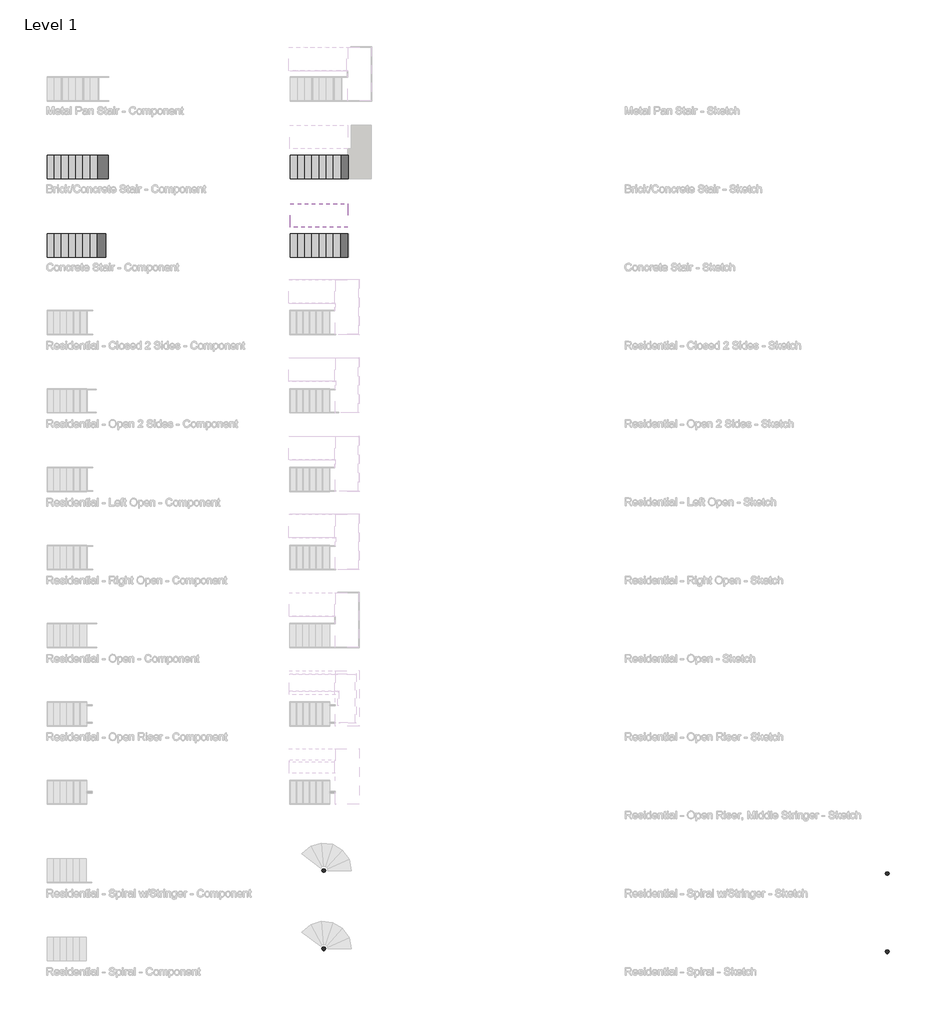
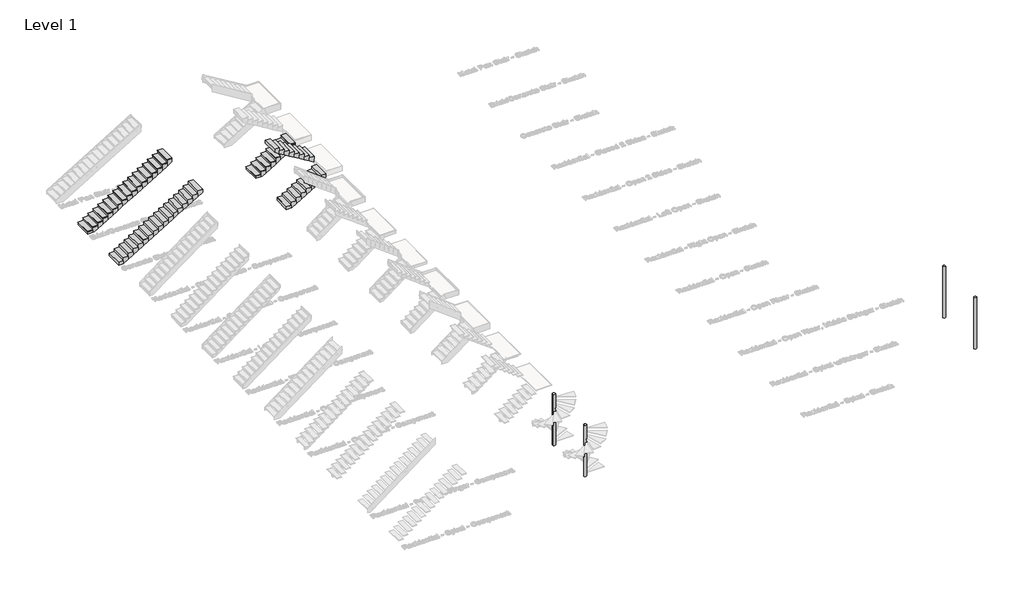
# One storey, part 1 of 26: 5 stair flights, 4 columns.
"""IFC4 building model written with IfcOpenShell, lengths in millimetres."""

from ifc_helpers import new_model, si_unit, frame, origin, place, context, project, spatial, polyline, outline, extrude, faceted_brep, transform, mapped, element, save
from components import column_79e7fb11

model = new_model("IFC4")

# Units and contexts
model_context = context("Model", 3, world=origin())
ifc_project = project(units=[si_unit("LENGTHUNIT", "METRE", prefix="MILLI")], contexts=[model_context])

# Site, building, storey
site = spatial("IfcSite", under=ifc_project)
building = spatial("IfcBuilding", under=site)
storey = spatial("IfcBuildingStorey", under=building, Name="Level 1", Elevation=0.0)

# Columns
placement = place(None, origin())
column_shape = column_79e7fb11(model_context)
element("IfcColumn", 1, ObjectType="Round Column : 06\" Diameter", at=placement, inside=storey, context=model_context, shape_type="MappedRepresentation", body=[
    mapped(column_shape, transform((5492.2136216, -13992.6110643, 0.0), x_axis=(1.0, 0.0, 0.0), y_axis=(0.0, 1.0, 0.0), z_axis=(0.0, 0.0, 1.0))),
])
element("IfcColumn", 2, ObjectType="Round Column : 06\" Diameter", at=placement, inside=storey, context=model_context, shape_type="MappedRepresentation", body=[
    mapped(column_shape, transform((5492.2136216, -17040.6110643, 0.0), x_axis=(1.0, 0.0, 0.0), y_axis=(0.0, 1.0, 0.0), z_axis=(0.0, 0.0, 1.0))),
])
element("IfcColumn", 3, ObjectType="Round Column : 06\" Diameter", at=placement, inside=storey, context=model_context, shape_type="MappedRepresentation", body=[
    mapped(column_shape, transform((-16453.3863784, -13874.8871906, 0.0), x_axis=(1.0, 0.0, 0.0), y_axis=(0.0, 1.0, 0.0), z_axis=(0.0, 0.0, 1.0))),
])
element("IfcColumn", 4, ObjectType="Round Column : 06\" Diameter", at=placement, inside=storey, context=model_context, shape_type="MappedRepresentation", body=[
    mapped(column_shape, transform((-16453.3863784, -16922.8871906, 0.0), x_axis=(1.0, 0.0, 0.0), y_axis=(0.0, 1.0, 0.0), z_axis=(0.0, 0.0, 1.0))),
])

# Stair flights
element("IfcStairFlight", 5, ObjectType="1 3/4\" Tread 1\" Nosing", at=placement, inside=storey, context=model_context, shape_type="SolidModel", body=[
    faceted_brep([(-26926.0481446, 13972.7635042, 124.8833333), (-27205.4481446, 13972.7635042, 124.8833333), (-27205.4481446, 13058.3635042, 124.8833333), (-26926.0481446, 13058.3635042, 124.8833333), (-26926.0481446, 13972.7635042, 0.0), (-27205.4481446, 13972.7635042, 0.0), (-27205.4481446, 13058.3635042, 0.0), (-26926.0481446, 13058.3635042, 0.0), (-26646.6481446, 13972.7635042, 294.2166667), (-26926.0481446, 13972.7635042, 294.2166667), (-26926.0481446, 13058.3635042, 294.2166667), (-26646.6481446, 13058.3635042, 294.2166667), (-26646.6481446, 13972.7635042, 116.0122859), (-26838.0684164, 13972.7635042, 0.0), (-26838.0684164, 13058.3635042, 0.0), (-26646.6481446, 13058.3635042, 116.0122859), (-26367.2481446, 13972.7635042, 463.55), (-26646.6481446, 13972.7635042, 463.55), (-26646.6481446, 13058.3635042, 463.55), (-26367.2481446, 13058.3635042, 463.55), (-26367.2481446, 13972.7635042, 285.3456192), (-26367.2481446, 13058.3635042, 285.3456192), (-26087.8481446, 13972.7635042, 632.8833333), (-26367.2481446, 13972.7635042, 632.8833333), (-26367.2481446, 13058.3635042, 632.8833333), (-26087.8481446, 13058.3635042, 632.8833333), (-26087.8481446, 13972.7635042, 454.6789526), (-26087.8481446, 13058.3635042, 454.6789526), (-25808.4481446, 13972.7635042, 802.2166667), (-26087.8481446, 13972.7635042, 802.2166667), (-26087.8481446, 13058.3635042, 802.2166667), (-25808.4481446, 13058.3635042, 802.2166667), (-25808.4481446, 13972.7635042, 624.0122859), (-25808.4481446, 13058.3635042, 624.0122859), (-25529.0481446, 13972.7635042, 971.55), (-25808.4481446, 13972.7635042, 971.55), (-25808.4481446, 13058.3635042, 971.55), (-25529.0481446, 13058.3635042, 971.55), (-25529.0481446, 13972.7635042, 793.3456192), (-25529.0481446, 13058.3635042, 793.3456192), (-25249.6481446, 13972.7635042, 1140.8833333), (-25529.0481446, 13972.7635042, 1140.8833333), (-25529.0481446, 13058.3635042, 1140.8833333), (-25249.6481446, 13058.3635042, 1140.8833333), (-25249.6481446, 13972.7635042, 962.6789526), (-25249.6481446, 13058.3635042, 962.6789526), (-24970.2481446, 13972.7635042, 1310.2166667), (-25249.6481446, 13972.7635042, 1310.2166667), (-25249.6481446, 13058.3635042, 1310.2166667), (-24970.2481446, 13058.3635042, 1310.2166667), (-24970.2481446, 13972.7635042, 1132.0122859), (-24970.2481446, 13058.3635042, 1132.0122859), (-24690.8481446, 13972.7635042, 1479.55), (-24970.2481446, 13972.7635042, 1479.55), (-24970.2481446, 13058.3635042, 1479.55), (-24690.8481446, 13058.3635042, 1479.55), (-24690.8481446, 13972.7635042, 1301.3456192), (-24690.8481446, 13058.3635042, 1301.3456192), (-24411.4481446, 13972.7635042, 1648.8833333), (-24690.8481446, 13972.7635042, 1648.8833333), (-24690.8481446, 13058.3635042, 1648.8833333), (-24411.4481446, 13058.3635042, 1648.8833333), (-24411.4481446, 13972.7635042, 1470.6789526), (-24411.4481446, 13058.3635042, 1470.6789526), (-24132.0481446, 13972.7635042, 1818.2166667), (-24411.4481446, 13972.7635042, 1818.2166667), (-24411.4481446, 13058.3635042, 1818.2166667), (-24132.0481446, 13058.3635042, 1818.2166667), (-24132.0481446, 13972.7635042, 1640.0122859), (-24132.0481446, 13058.3635042, 1640.0122859), (-23852.6481446, 13972.7635042, 1987.55), (-24132.0481446, 13972.7635042, 1987.55), (-24132.0481446, 13058.3635042, 1987.55), (-23852.6481446, 13058.3635042, 1987.55), (-23852.6481446, 13972.7635042, 1809.3456192), (-23852.6481446, 13058.3635042, 1809.3456192), (-23573.2481446, 13972.7635042, 2156.8833333), (-23852.6481446, 13972.7635042, 2156.8833333), (-23852.6481446, 13058.3635042, 2156.8833333), (-23573.2481446, 13058.3635042, 2156.8833333), (-23573.2481446, 13972.7635042, 1978.6789526), (-23573.2481446, 13058.3635042, 1978.6789526), (-23293.8481446, 13972.7635042, 2326.2166667), (-23573.2481446, 13972.7635042, 2326.2166667), (-23573.2481446, 13058.3635042, 2326.2166667), (-23293.8481446, 13058.3635042, 2326.2166667), (-23293.8481446, 13972.7635042, 2148.0122859), (-23293.8481446, 13058.3635042, 2148.0122859), (-23014.4481446, 13972.7635042, 2495.55), (-23293.8481446, 13972.7635042, 2495.55), (-23293.8481446, 13058.3635042, 2495.55), (-23014.4481446, 13058.3635042, 2495.55), (-23014.4481446, 13972.7635042, 2317.3456192), (-23014.4481446, 13058.3635042, 2317.3456192), (-22735.0481446, 13972.7635042, 2664.8833333), (-23014.4481446, 13972.7635042, 2664.8833333), (-23014.4481446, 13058.3635042, 2664.8833333), (-22735.0481446, 13058.3635042, 2664.8833333), (-22735.0481446, 13972.7635042, 2486.6789526), (-22735.0481446, 13058.3635042, 2486.6789526), (-22455.6481446, 13972.7635042, 2834.2166667), (-22735.0481446, 13972.7635042, 2834.2166667), (-22735.0481446, 13058.3635042, 2834.2166667), (-22455.6481446, 13058.3635042, 2834.2166667), (-22455.6481446, 13972.7635042, 2656.0122859), (-22455.6481446, 13058.3635042, 2656.0122859)], [[[0, 1, 2, 3]], [[1, 0, 4, 5]], [[2, 1, 5, 6]], [[3, 2, 6, 7]], [[8, 9, 10, 11]], [[4, 0, 9, 8, 12, 13]], [[0, 3, 10, 9]], [[3, 7, 14, 15, 11, 10]], [[16, 17, 18, 19]], [[17, 16, 20, 12, 8]], [[8, 11, 18, 17]], [[19, 18, 11, 15, 21]], [[22, 23, 24, 25]], [[23, 22, 26, 20, 16]], [[16, 19, 24, 23]], [[25, 24, 19, 21, 27]], [[28, 29, 30, 31]], [[29, 28, 32, 26, 22]], [[22, 25, 30, 29]], [[31, 30, 25, 27, 33]], [[34, 35, 36, 37]], [[35, 34, 38, 32, 28]], [[28, 31, 36, 35]], [[37, 36, 31, 33, 39]], [[40, 41, 42, 43]], [[41, 40, 44, 38, 34]], [[34, 37, 42, 41]], [[43, 42, 37, 39, 45]], [[46, 47, 48, 49]], [[47, 46, 50, 44, 40]], [[40, 43, 48, 47]], [[49, 48, 43, 45, 51]], [[52, 53, 54, 55]], [[53, 52, 56, 50, 46]], [[46, 49, 54, 53]], [[55, 54, 49, 51, 57]], [[58, 59, 60, 61]], [[59, 58, 62, 56, 52]], [[52, 55, 60, 59]], [[61, 60, 55, 57, 63]], [[64, 65, 66, 67]], [[65, 64, 68, 62, 58]], [[58, 61, 66, 65]], [[67, 66, 61, 63, 69]], [[70, 71, 72, 73]], [[71, 70, 74, 68, 64]], [[64, 67, 72, 71]], [[73, 72, 67, 69, 75]], [[76, 77, 78, 79]], [[77, 76, 80, 74, 70]], [[70, 73, 78, 77]], [[79, 78, 73, 75, 81]], [[82, 83, 84, 85]], [[83, 82, 86, 80, 76]], [[76, 79, 84, 83]], [[85, 84, 79, 81, 87]], [[88, 89, 90, 91]], [[89, 88, 92, 86, 82]], [[82, 85, 90, 89]], [[91, 90, 85, 87, 93]], [[94, 95, 96, 97]], [[95, 94, 98, 92, 88]], [[88, 91, 96, 95]], [[97, 96, 91, 93, 99]], [[100, 101, 102, 103]], [[101, 100, 104, 98, 94]], [[94, 97, 102, 101]], [[103, 102, 97, 99, 105]], [[100, 103, 105, 104]], [[5, 4, 13, 14, 7, 6]], [[14, 13, 12, 20, 26, 32, 38, 44, 50, 56, 62, 68, 74, 80, 86, 92, 98, 104, 105, 99, 93, 87, 81, 75, 69, 63, 57, 51, 45, 39, 33, 27, 21, 15]]]),
    extrude(outline(polyline([(169.3333333, -26926.0481446), (169.3333333, -27230.8481446), (150.2833333, -27230.8481446), (124.8833333, -27205.4481446), (124.8833333, -26926.0481446), (169.3333333, -26926.0481446)])), frame((0.0, 13058.3635042, 0.0), z_axis=(0.0, 1.0, 0.0), x_axis=(0.0, 0.0, 1.0)), (0.0, 0.0, 1.0), 914.4),
    extrude(outline(polyline([(338.6666667, -26646.6481446), (338.6666667, -26951.4481446), (319.6166667, -26951.4481446), (294.2166667, -26926.0481446), (294.2166667, -26646.6481446), (338.6666667, -26646.6481446)])), frame((0.0, 13058.3635042, 0.0), z_axis=(0.0, 1.0, 0.0), x_axis=(0.0, 0.0, 1.0)), (0.0, 0.0, 1.0), 914.4),
    extrude(outline(polyline([(508.0, -26367.2481446), (508.0, -26672.0481446), (488.95, -26672.0481446), (463.55, -26646.6481446), (463.55, -26367.2481446), (508.0, -26367.2481446)])), frame((0.0, 13058.3635042, 0.0), z_axis=(0.0, 1.0, 0.0), x_axis=(0.0, 0.0, 1.0)), (0.0, 0.0, 1.0), 914.4),
    extrude(outline(polyline([(677.3333333, -26087.8481446), (677.3333333, -26392.6481446), (658.2833333, -26392.6481446), (632.8833333, -26367.2481446), (632.8833333, -26087.8481446), (677.3333333, -26087.8481446)])), frame((0.0, 13058.3635042, 0.0), z_axis=(0.0, 1.0, 0.0), x_axis=(0.0, 0.0, 1.0)), (0.0, 0.0, 1.0), 914.4),
    extrude(outline(polyline([(846.6666667, -25808.4481446), (846.6666667, -26113.2481446), (827.6166667, -26113.2481446), (802.2166667, -26087.8481446), (802.2166667, -25808.4481446), (846.6666667, -25808.4481446)])), frame((0.0, 13058.3635042, 0.0), z_axis=(0.0, 1.0, 0.0), x_axis=(0.0, 0.0, 1.0)), (0.0, 0.0, 1.0), 914.4),
    extrude(outline(polyline([(1016.0, -25529.0481446), (1016.0, -25833.8481446), (996.95, -25833.8481446), (971.55, -25808.4481446), (971.55, -25529.0481446), (1016.0, -25529.0481446)])), frame((0.0, 13058.3635042, 0.0), z_axis=(0.0, 1.0, 0.0), x_axis=(0.0, 0.0, 1.0)), (0.0, 0.0, 1.0), 914.4),
    extrude(outline(polyline([(1185.3333333, -25249.6481446), (1185.3333333, -25554.4481446), (1166.2833333, -25554.4481446), (1140.8833333, -25529.0481446), (1140.8833333, -25249.6481446), (1185.3333333, -25249.6481446)])), frame((0.0, 13058.3635042, 0.0), z_axis=(0.0, 1.0, 0.0), x_axis=(0.0, 0.0, 1.0)), (0.0, 0.0, 1.0), 914.4),
    extrude(outline(polyline([(1354.6666667, -24970.2481446), (1354.6666667, -25275.0481446), (1335.6166667, -25275.0481446), (1310.2166667, -25249.6481446), (1310.2166667, -24970.2481446), (1354.6666667, -24970.2481446)])), frame((0.0, 13058.3635042, 0.0), z_axis=(0.0, 1.0, 0.0), x_axis=(0.0, 0.0, 1.0)), (0.0, 0.0, 1.0), 914.4),
    extrude(outline(polyline([(1524.0, -24690.8481446), (1524.0, -24995.6481446), (1504.95, -24995.6481446), (1479.55, -24970.2481446), (1479.55, -24690.8481446), (1524.0, -24690.8481446)])), frame((0.0, 13058.3635042, 0.0), z_axis=(0.0, 1.0, 0.0), x_axis=(0.0, 0.0, 1.0)), (0.0, 0.0, 1.0), 914.4),
    extrude(outline(polyline([(1693.3333333, -24411.4481446), (1693.3333333, -24716.2481446), (1674.2833333, -24716.2481446), (1648.8833333, -24690.8481446), (1648.8833333, -24411.4481446), (1693.3333333, -24411.4481446)])), frame((0.0, 13058.3635042, 0.0), z_axis=(0.0, 1.0, 0.0), x_axis=(0.0, 0.0, 1.0)), (0.0, 0.0, 1.0), 914.4),
    extrude(outline(polyline([(1862.6666667, -24132.0481446), (1862.6666667, -24436.8481446), (1843.6166667, -24436.8481446), (1818.2166667, -24411.4481446), (1818.2166667, -24132.0481446), (1862.6666667, -24132.0481446)])), frame((0.0, 13058.3635042, 0.0), z_axis=(0.0, 1.0, 0.0), x_axis=(0.0, 0.0, 1.0)), (0.0, 0.0, 1.0), 914.4),
    extrude(outline(polyline([(2032.0, -23852.6481446), (2032.0, -24157.4481446), (2012.95, -24157.4481446), (1987.55, -24132.0481446), (1987.55, -23852.6481446), (2032.0, -23852.6481446)])), frame((0.0, 13058.3635042, 0.0), z_axis=(0.0, 1.0, 0.0), x_axis=(0.0, 0.0, 1.0)), (0.0, 0.0, 1.0), 914.4),
    extrude(outline(polyline([(2201.3333333, -23573.2481446), (2201.3333333, -23878.0481446), (2182.2833333, -23878.0481446), (2156.8833333, -23852.6481446), (2156.8833333, -23573.2481446), (2201.3333333, -23573.2481446)])), frame((0.0, 13058.3635042, 0.0), z_axis=(0.0, 1.0, 0.0), x_axis=(0.0, 0.0, 1.0)), (0.0, 0.0, 1.0), 914.4),
    extrude(outline(polyline([(2370.6666667, -23293.8481446), (2370.6666667, -23598.6481446), (2351.6166667, -23598.6481446), (2326.2166667, -23573.2481446), (2326.2166667, -23293.8481446), (2370.6666667, -23293.8481446)])), frame((0.0, 13058.3635042, 0.0), z_axis=(0.0, 1.0, 0.0), x_axis=(0.0, 0.0, 1.0)), (0.0, 0.0, 1.0), 914.4),
    extrude(outline(polyline([(2540.0, -23014.4481446), (2540.0, -23319.2481446), (2520.95, -23319.2481446), (2495.55, -23293.8481446), (2495.55, -23014.4481446), (2540.0, -23014.4481446)])), frame((0.0, 13058.3635042, 0.0), z_axis=(0.0, 1.0, 0.0), x_axis=(0.0, 0.0, 1.0)), (0.0, 0.0, 1.0), 914.4),
    extrude(outline(polyline([(2709.3333333, -22735.0481446), (2709.3333333, -23039.8481446), (2690.2833333, -23039.8481446), (2664.8833333, -23014.4481446), (2664.8833333, -22735.0481446), (2709.3333333, -22735.0481446)])), frame((0.0, 13058.3635042, 0.0), z_axis=(0.0, 1.0, 0.0), x_axis=(0.0, 0.0, 1.0)), (0.0, 0.0, 1.0), 914.4),
    extrude(outline(polyline([(2878.6666667, -22455.6481446), (2878.6666667, -22760.4481446), (2859.6166667, -22760.4481446), (2834.2166667, -22735.0481446), (2834.2166667, -22455.6481446), (2878.6666667, -22455.6481446)])), frame((0.0, 13058.3635042, 0.0), z_axis=(0.0, 1.0, 0.0), x_axis=(0.0, 0.0, 1.0)), (0.0, 0.0, 1.0), 914.4),
])
element("IfcStairFlight", 6, ObjectType="1 3/4\" Tread 1\" Nosing", at=placement, inside=storey, context=model_context, shape_type="Brep", body=[
    faceted_brep([(-17451.8481446, 13972.7635042, 124.8833333), (-17731.2481446, 13972.7635042, 124.8833333), (-17731.2481446, 13058.3635042, 124.8833333), (-17451.8481446, 13058.3635042, 124.8833333), (-17451.8481446, 13972.7635042, 0.0), (-17731.2481446, 13972.7635042, 0.0), (-17731.2481446, 13058.3635042, 0.0), (-17451.8481446, 13058.3635042, 0.0), (-15775.4481446, 13972.7635042, 1310.2166667), (-15775.4481446, 13058.3635042, 1310.2166667), (-15521.4481446, 13058.3635042, 1310.2166667), (-15496.0481446, 13058.3635042, 1310.2166667), (-15496.0481446, 13972.7635042, 1310.2166667), (-15521.4481446, 13972.7635042, 1310.2166667), (-15775.4481446, 13972.7635042, 1140.8833333), (-15496.0481446, 13972.7635042, 1177.1469875), (-15496.0481446, 13972.7635042, 1132.0122859), (-15775.4481446, 13972.7635042, 962.6789526), (-15775.4481446, 13058.3635042, 1140.8833333), (-15775.4481446, 13058.3635042, 962.6789526), (-15521.4481446, 13058.3635042, 1116.6183465), (-15496.0481446, 13058.3635042, 1132.0122859), (-17172.4481446, 13972.7635042, 294.2166667), (-17451.8481446, 13972.7635042, 294.2166667), (-17451.8481446, 13058.3635042, 294.2166667), (-17172.4481446, 13058.3635042, 294.2166667), (-17172.4481446, 13972.7635042, 116.0122859), (-17363.8684164, 13972.7635042, 0.0), (-17363.8684164, 13058.3635042, 0.0), (-17172.4481446, 13058.3635042, 116.0122859), (-16893.0481446, 13972.7635042, 463.55), (-17172.4481446, 13972.7635042, 463.55), (-17172.4481446, 13058.3635042, 463.55), (-16893.0481446, 13058.3635042, 463.55), (-16893.0481446, 13972.7635042, 285.3456192), (-16893.0481446, 13058.3635042, 285.3456192), (-16613.6481446, 13972.7635042, 632.8833333), (-16893.0481446, 13972.7635042, 632.8833333), (-16893.0481446, 13058.3635042, 632.8833333), (-16613.6481446, 13058.3635042, 632.8833333), (-16613.6481446, 13972.7635042, 454.6789526), (-16613.6481446, 13058.3635042, 454.6789526), (-16334.2481446, 13972.7635042, 802.2166667), (-16613.6481446, 13972.7635042, 802.2166667), (-16613.6481446, 13058.3635042, 802.2166667), (-16334.2481446, 13058.3635042, 802.2166667), (-16334.2481446, 13972.7635042, 624.0122859), (-16334.2481446, 13058.3635042, 624.0122859), (-16054.8481446, 13972.7635042, 971.55), (-16334.2481446, 13972.7635042, 971.55), (-16334.2481446, 13058.3635042, 971.55), (-16054.8481446, 13058.3635042, 971.55), (-16054.8481446, 13972.7635042, 793.3456192), (-16054.8481446, 13058.3635042, 793.3456192), (-16054.8481446, 13972.7635042, 1140.8833333), (-16054.8481446, 13058.3635042, 1140.8833333)], [[[0, 1, 2, 3]], [[1, 0, 4, 5]], [[2, 1, 5, 6]], [[3, 2, 6, 7]], [[8, 9, 10, 11, 12, 13]], [[14, 8, 13, 12, 15, 16, 17]], [[14, 18, 9, 8]], [[10, 9, 18, 19, 20]], [[11, 10, 20, 21]], [[12, 11, 21, 16, 15]], [[22, 23, 24, 25]], [[4, 0, 23, 22, 26, 27]], [[0, 3, 24, 23]], [[3, 7, 28, 29, 25, 24]], [[30, 31, 32, 33]], [[31, 30, 34, 26, 22]], [[22, 25, 32, 31]], [[33, 32, 25, 29, 35]], [[36, 37, 38, 39]], [[37, 36, 40, 34, 30]], [[30, 33, 38, 37]], [[39, 38, 33, 35, 41]], [[42, 43, 44, 45]], [[43, 42, 46, 40, 36]], [[36, 39, 44, 43]], [[45, 44, 39, 41, 47]], [[48, 49, 50, 51]], [[49, 48, 52, 46, 42]], [[42, 45, 50, 49]], [[51, 50, 45, 47, 53]], [[14, 54, 55, 18]], [[54, 14, 17, 52, 48]], [[48, 51, 55, 54]], [[18, 55, 51, 53, 19]], [[5, 4, 27, 28, 7, 6]], [[28, 27, 26, 34, 40, 46, 52, 17, 16, 21, 20, 19, 53, 47, 41, 35, 29]]]),
    faceted_brep([(-17756.6481446, 13972.7635042, 169.3333333), (-17756.6481446, 13058.3635042, 169.3333333), (-17451.8481446, 13058.3635042, 169.3333333), (-17451.8481446, 13972.7635042, 169.3333333), (-17731.2481446, 13972.7635042, 124.8833333), (-17451.8481446, 13972.7635042, 124.8833333), (-17451.8481446, 13058.3635042, 124.8833333), (-17731.2481446, 13058.3635042, 124.8833333), (-17756.6481446, 13972.7635042, 150.2833333), (-17756.6481446, 13058.3635042, 150.2833333)], [[[0, 1, 2, 3]], [[4, 5, 6, 7]], [[0, 3, 5, 4, 8]], [[2, 1, 9, 7, 6]], [[3, 2, 6, 5]], [[9, 1, 0, 8]], [[7, 9, 8, 4]]]),
    faceted_brep([(-15800.8481446, 13972.7635042, 1354.6666667), (-15800.8481446, 13058.3635042, 1354.6666667), (-15521.4481446, 13058.3635042, 1354.6666667), (-15496.0481446, 13058.3635042, 1354.6666667), (-15496.0481446, 13972.7635042, 1354.6666667), (-15775.4481446, 13972.7635042, 1310.2166667), (-15496.0481446, 13972.7635042, 1310.2166667), (-15496.0481446, 13058.3635042, 1310.2166667), (-15521.4481446, 13058.3635042, 1310.2166667), (-15775.4481446, 13058.3635042, 1310.2166667), (-15800.8481446, 13972.7635042, 1335.6166667), (-15800.8481446, 13058.3635042, 1335.6166667)], [[[0, 1, 2, 3, 4]], [[5, 6, 7, 8, 9]], [[0, 4, 6, 5, 10]], [[2, 1, 11, 9, 8]], [[3, 2, 8, 7]], [[11, 1, 0, 10]], [[9, 11, 10, 5]], [[4, 3, 7, 6]]]),
    faceted_brep([(-17477.2481446, 13972.7635042, 338.6666667), (-17477.2481446, 13058.3635042, 338.6666667), (-17172.4481446, 13058.3635042, 338.6666667), (-17172.4481446, 13972.7635042, 338.6666667), (-17451.8481446, 13972.7635042, 294.2166667), (-17172.4481446, 13972.7635042, 294.2166667), (-17172.4481446, 13058.3635042, 294.2166667), (-17451.8481446, 13058.3635042, 294.2166667), (-17477.2481446, 13972.7635042, 319.6166667), (-17477.2481446, 13058.3635042, 319.6166667)], [[[0, 1, 2, 3]], [[4, 5, 6, 7]], [[0, 3, 5, 4, 8]], [[2, 1, 9, 7, 6]], [[3, 2, 6, 5]], [[9, 1, 0, 8]], [[7, 9, 8, 4]]]),
    faceted_brep([(-17197.8481446, 13972.7635042, 508.0), (-17197.8481446, 13058.3635042, 508.0), (-16893.0481446, 13058.3635042, 508.0), (-16893.0481446, 13972.7635042, 508.0), (-17172.4481446, 13972.7635042, 463.55), (-16893.0481446, 13972.7635042, 463.55), (-16893.0481446, 13058.3635042, 463.55), (-17172.4481446, 13058.3635042, 463.55), (-17197.8481446, 13972.7635042, 488.95), (-17197.8481446, 13058.3635042, 488.95)], [[[0, 1, 2, 3]], [[4, 5, 6, 7]], [[0, 3, 5, 4, 8]], [[2, 1, 9, 7, 6]], [[3, 2, 6, 5]], [[9, 1, 0, 8]], [[7, 9, 8, 4]]]),
    faceted_brep([(-16918.4481446, 13972.7635042, 677.3333333), (-16918.4481446, 13058.3635042, 677.3333333), (-16613.6481446, 13058.3635042, 677.3333333), (-16613.6481446, 13972.7635042, 677.3333333), (-16893.0481446, 13972.7635042, 632.8833333), (-16613.6481446, 13972.7635042, 632.8833333), (-16613.6481446, 13058.3635042, 632.8833333), (-16893.0481446, 13058.3635042, 632.8833333), (-16918.4481446, 13972.7635042, 658.2833333), (-16918.4481446, 13058.3635042, 658.2833333)], [[[0, 1, 2, 3]], [[4, 5, 6, 7]], [[0, 3, 5, 4, 8]], [[2, 1, 9, 7, 6]], [[3, 2, 6, 5]], [[9, 1, 0, 8]], [[7, 9, 8, 4]]]),
    faceted_brep([(-16639.0481446, 13972.7635042, 846.6666667), (-16639.0481446, 13058.3635042, 846.6666667), (-16334.2481446, 13058.3635042, 846.6666667), (-16334.2481446, 13972.7635042, 846.6666667), (-16613.6481446, 13972.7635042, 802.2166667), (-16334.2481446, 13972.7635042, 802.2166667), (-16334.2481446, 13058.3635042, 802.2166667), (-16613.6481446, 13058.3635042, 802.2166667), (-16639.0481446, 13972.7635042, 827.6166667), (-16639.0481446, 13058.3635042, 827.6166667)], [[[0, 1, 2, 3]], [[4, 5, 6, 7]], [[0, 3, 5, 4, 8]], [[2, 1, 9, 7, 6]], [[3, 2, 6, 5]], [[9, 1, 0, 8]], [[7, 9, 8, 4]]]),
    faceted_brep([(-16359.6481446, 13972.7635042, 1016.0), (-16359.6481446, 13058.3635042, 1016.0), (-16054.8481446, 13058.3635042, 1016.0), (-16054.8481446, 13972.7635042, 1016.0), (-16334.2481446, 13972.7635042, 971.55), (-16054.8481446, 13972.7635042, 971.55), (-16054.8481446, 13058.3635042, 971.55), (-16334.2481446, 13058.3635042, 971.55), (-16359.6481446, 13972.7635042, 996.95), (-16359.6481446, 13058.3635042, 996.95)], [[[0, 1, 2, 3]], [[4, 5, 6, 7]], [[0, 3, 5, 4, 8]], [[2, 1, 9, 7, 6]], [[3, 2, 6, 5]], [[9, 1, 0, 8]], [[7, 9, 8, 4]]]),
    faceted_brep([(-16080.2481446, 13972.7635042, 1185.3333333), (-16080.2481446, 13058.3635042, 1185.3333333), (-15775.4481446, 13058.3635042, 1185.3333333), (-15775.4481446, 13972.7635042, 1185.3333333), (-16054.8481446, 13972.7635042, 1140.8833333), (-15775.4481446, 13972.7635042, 1140.8833333), (-15775.4481446, 13058.3635042, 1140.8833333), (-16054.8481446, 13058.3635042, 1140.8833333), (-16080.2481446, 13972.7635042, 1166.2833333), (-16080.2481446, 13058.3635042, 1166.2833333)], [[[0, 1, 2, 3]], [[4, 5, 6, 7]], [[0, 3, 5, 4, 8]], [[2, 1, 9, 7, 6]], [[3, 2, 6, 5]], [[9, 1, 0, 8]], [[7, 9, 8, 4]]]),
])
element("IfcStairFlight", 7, ObjectType="1/32\" Tread", at=placement, inside=storey, context=model_context, shape_type="SolidModel", body=[
    faceted_brep([(-26951.4481446, 10924.7635042, 168.5395833), (-27230.8481446, 10924.7635042, 168.5395833), (-27230.8481446, 10010.3635042, 168.5395833), (-26951.4481446, 10010.3635042, 168.5395833), (-26951.4481446, 10924.7635042, 0.0), (-27230.8481446, 10924.7635042, 0.0), (-27230.8481446, 10010.3635042, 0.0), (-26951.4481446, 10010.3635042, 0.0), (-26672.0481446, 10924.7635042, 337.8729167), (-26951.4481446, 10924.7635042, 337.8729167), (-26951.4481446, 10010.3635042, 337.8729167), (-26672.0481446, 10010.3635042, 337.8729167), (-26672.0481446, 10924.7635042, 159.6685359), (-26935.5012289, 10924.7635042, 0.0), (-26935.5012289, 10010.3635042, 0.0), (-26672.0481446, 10010.3635042, 159.6685359), (-26392.6481446, 10924.7635042, 507.20625), (-26672.0481446, 10924.7635042, 507.20625), (-26672.0481446, 10010.3635042, 507.20625), (-26392.6481446, 10010.3635042, 507.20625), (-26392.6481446, 10924.7635042, 329.0018692), (-26392.6481446, 10010.3635042, 329.0018692), (-26113.2481446, 10924.7635042, 676.5395833), (-26392.6481446, 10924.7635042, 676.5395833), (-26392.6481446, 10010.3635042, 676.5395833), (-26113.2481446, 10010.3635042, 676.5395833), (-26113.2481446, 10924.7635042, 498.3352026), (-26113.2481446, 10010.3635042, 498.3352026), (-25833.8481446, 10924.7635042, 845.8729167), (-26113.2481446, 10924.7635042, 845.8729167), (-26113.2481446, 10010.3635042, 845.8729167), (-25833.8481446, 10010.3635042, 845.8729167), (-25833.8481446, 10924.7635042, 667.6685359), (-25833.8481446, 10010.3635042, 667.6685359), (-25554.4481446, 10924.7635042, 1015.20625), (-25833.8481446, 10924.7635042, 1015.20625), (-25833.8481446, 10010.3635042, 1015.20625), (-25554.4481446, 10010.3635042, 1015.20625), (-25554.4481446, 10924.7635042, 837.0018692), (-25554.4481446, 10010.3635042, 837.0018692), (-25275.0481446, 10924.7635042, 1184.5395833), (-25554.4481446, 10924.7635042, 1184.5395833), (-25554.4481446, 10010.3635042, 1184.5395833), (-25275.0481446, 10010.3635042, 1184.5395833), (-25275.0481446, 10924.7635042, 1006.3352026), (-25275.0481446, 10010.3635042, 1006.3352026), (-24995.6481446, 10924.7635042, 1353.8729167), (-25275.0481446, 10924.7635042, 1353.8729167), (-25275.0481446, 10010.3635042, 1353.8729167), (-24995.6481446, 10010.3635042, 1353.8729167), (-24995.6481446, 10924.7635042, 1175.6685359), (-24995.6481446, 10010.3635042, 1175.6685359), (-24716.2481446, 10924.7635042, 1523.20625), (-24995.6481446, 10924.7635042, 1523.20625), (-24995.6481446, 10010.3635042, 1523.20625), (-24716.2481446, 10010.3635042, 1523.20625), (-24716.2481446, 10924.7635042, 1345.0018692), (-24716.2481446, 10010.3635042, 1345.0018692), (-24436.8481446, 10924.7635042, 1692.5395833), (-24716.2481446, 10924.7635042, 1692.5395833), (-24716.2481446, 10010.3635042, 1692.5395833), (-24436.8481446, 10010.3635042, 1692.5395833), (-24436.8481446, 10924.7635042, 1514.3352026), (-24436.8481446, 10010.3635042, 1514.3352026), (-24157.4481446, 10924.7635042, 1861.8729167), (-24436.8481446, 10924.7635042, 1861.8729167), (-24436.8481446, 10010.3635042, 1861.8729167), (-24157.4481446, 10010.3635042, 1861.8729167), (-24157.4481446, 10924.7635042, 1683.6685359), (-24157.4481446, 10010.3635042, 1683.6685359), (-23878.0481446, 10924.7635042, 2031.20625), (-24157.4481446, 10924.7635042, 2031.20625), (-24157.4481446, 10010.3635042, 2031.20625), (-23878.0481446, 10010.3635042, 2031.20625), (-23878.0481446, 10924.7635042, 1853.0018692), (-23878.0481446, 10010.3635042, 1853.0018692), (-23598.6481446, 10924.7635042, 2200.5395833), (-23878.0481446, 10924.7635042, 2200.5395833), (-23878.0481446, 10010.3635042, 2200.5395833), (-23598.6481446, 10010.3635042, 2200.5395833), (-23598.6481446, 10924.7635042, 2022.3352026), (-23598.6481446, 10010.3635042, 2022.3352026), (-23319.2481446, 10924.7635042, 2369.8729167), (-23598.6481446, 10924.7635042, 2369.8729167), (-23598.6481446, 10010.3635042, 2369.8729167), (-23319.2481446, 10010.3635042, 2369.8729167), (-23319.2481446, 10924.7635042, 2191.6685359), (-23319.2481446, 10010.3635042, 2191.6685359), (-23039.8481446, 10924.7635042, 2539.20625), (-23319.2481446, 10924.7635042, 2539.20625), (-23319.2481446, 10010.3635042, 2539.20625), (-23039.8481446, 10010.3635042, 2539.20625), (-23039.8481446, 10924.7635042, 2361.0018692), (-23039.8481446, 10010.3635042, 2361.0018692), (-22760.4481446, 10924.7635042, 2708.5395833), (-23039.8481446, 10924.7635042, 2708.5395833), (-23039.8481446, 10010.3635042, 2708.5395833), (-22760.4481446, 10010.3635042, 2708.5395833), (-22760.4481446, 10924.7635042, 2530.3352026), (-22760.4481446, 10010.3635042, 2530.3352026), (-22481.0481446, 10924.7635042, 2877.8729167), (-22760.4481446, 10924.7635042, 2877.8729167), (-22760.4481446, 10010.3635042, 2877.8729167), (-22481.0481446, 10010.3635042, 2877.8729167), (-22481.0481446, 10924.7635042, 2699.6685359), (-22481.0481446, 10010.3635042, 2699.6685359)], [[[0, 1, 2, 3]], [[1, 0, 4, 5]], [[2, 1, 5, 6]], [[3, 2, 6, 7]], [[8, 9, 10, 11]], [[4, 0, 9, 8, 12, 13]], [[0, 3, 10, 9]], [[3, 7, 14, 15, 11, 10]], [[16, 17, 18, 19]], [[17, 16, 20, 12, 8]], [[8, 11, 18, 17]], [[19, 18, 11, 15, 21]], [[22, 23, 24, 25]], [[23, 22, 26, 20, 16]], [[16, 19, 24, 23]], [[25, 24, 19, 21, 27]], [[28, 29, 30, 31]], [[29, 28, 32, 26, 22]], [[22, 25, 30, 29]], [[31, 30, 25, 27, 33]], [[34, 35, 36, 37]], [[35, 34, 38, 32, 28]], [[28, 31, 36, 35]], [[37, 36, 31, 33, 39]], [[40, 41, 42, 43]], [[41, 40, 44, 38, 34]], [[34, 37, 42, 41]], [[43, 42, 37, 39, 45]], [[46, 47, 48, 49]], [[47, 46, 50, 44, 40]], [[40, 43, 48, 47]], [[49, 48, 43, 45, 51]], [[52, 53, 54, 55]], [[53, 52, 56, 50, 46]], [[46, 49, 54, 53]], [[55, 54, 49, 51, 57]], [[58, 59, 60, 61]], [[59, 58, 62, 56, 52]], [[52, 55, 60, 59]], [[61, 60, 55, 57, 63]], [[64, 65, 66, 67]], [[65, 64, 68, 62, 58]], [[58, 61, 66, 65]], [[67, 66, 61, 63, 69]], [[70, 71, 72, 73]], [[71, 70, 74, 68, 64]], [[64, 67, 72, 71]], [[73, 72, 67, 69, 75]], [[76, 77, 78, 79]], [[77, 76, 80, 74, 70]], [[70, 73, 78, 77]], [[79, 78, 73, 75, 81]], [[82, 83, 84, 85]], [[83, 82, 86, 80, 76]], [[76, 79, 84, 83]], [[85, 84, 79, 81, 87]], [[88, 89, 90, 91]], [[89, 88, 92, 86, 82]], [[82, 85, 90, 89]], [[91, 90, 85, 87, 93]], [[94, 95, 96, 97]], [[95, 94, 98, 92, 88]], [[88, 91, 96, 95]], [[97, 96, 91, 93, 99]], [[100, 101, 102, 103]], [[101, 100, 104, 98, 94]], [[94, 97, 102, 101]], [[103, 102, 97, 99, 105]], [[100, 103, 105, 104]], [[5, 4, 13, 14, 7, 6]], [[14, 13, 12, 20, 26, 32, 38, 44, 50, 56, 62, 68, 74, 80, 86, 92, 98, 104, 105, 99, 93, 87, 81, 75, 69, 63, 57, 51, 45, 39, 33, 27, 21, 15]]]),
    extrude(outline(polyline([(-26951.4481446, 10924.7635042), (-26951.4481446, 10010.3635042), (-27230.8481446, 10010.3635042), (-27230.8481446, 10924.7635042), (-26951.4481446, 10924.7635042)])), frame((0.0, 0.0, 168.5395833), z_axis=(0.0, 0.0, 1.0), x_axis=(1.0, 0.0, 0.0)), (0.0, 0.0, 1.0), 0.79375),
    extrude(outline(polyline([(-26672.0481446, 10924.7635042), (-26672.0481446, 10010.3635042), (-26951.4481446, 10010.3635042), (-26951.4481446, 10924.7635042), (-26672.0481446, 10924.7635042)])), frame((0.0, 0.0, 337.8729167), z_axis=(0.0, 0.0, 1.0), x_axis=(1.0, 0.0, 0.0)), (0.0, 0.0, 1.0), 0.79375),
    extrude(outline(polyline([(-26392.6481446, 10924.7635042), (-26392.6481446, 10010.3635042), (-26672.0481446, 10010.3635042), (-26672.0481446, 10924.7635042), (-26392.6481446, 10924.7635042)])), frame((0.0, 0.0, 507.20625), z_axis=(0.0, 0.0, 1.0), x_axis=(1.0, 0.0, 0.0)), (0.0, 0.0, 1.0), 0.79375),
    extrude(outline(polyline([(-26113.2481446, 10924.7635042), (-26113.2481446, 10010.3635042), (-26392.6481446, 10010.3635042), (-26392.6481446, 10924.7635042), (-26113.2481446, 10924.7635042)])), frame((0.0, 0.0, 676.5395833), z_axis=(0.0, 0.0, 1.0), x_axis=(1.0, 0.0, 0.0)), (0.0, 0.0, 1.0), 0.79375),
    extrude(outline(polyline([(-25833.8481446, 10924.7635042), (-25833.8481446, 10010.3635042), (-26113.2481446, 10010.3635042), (-26113.2481446, 10924.7635042), (-25833.8481446, 10924.7635042)])), frame((0.0, 0.0, 845.8729167), z_axis=(0.0, 0.0, 1.0), x_axis=(1.0, 0.0, 0.0)), (0.0, 0.0, 1.0), 0.79375),
    extrude(outline(polyline([(-25554.4481446, 10924.7635042), (-25554.4481446, 10010.3635042), (-25833.8481446, 10010.3635042), (-25833.8481446, 10924.7635042), (-25554.4481446, 10924.7635042)])), frame((0.0, 0.0, 1015.20625), z_axis=(0.0, 0.0, 1.0), x_axis=(1.0, 0.0, 0.0)), (0.0, 0.0, 1.0), 0.79375),
    extrude(outline(polyline([(-25275.0481446, 10924.7635042), (-25275.0481446, 10010.3635042), (-25554.4481446, 10010.3635042), (-25554.4481446, 10924.7635042), (-25275.0481446, 10924.7635042)])), frame((0.0, 0.0, 1184.5395833), z_axis=(0.0, 0.0, 1.0), x_axis=(1.0, 0.0, 0.0)), (0.0, 0.0, 1.0), 0.79375),
    extrude(outline(polyline([(-24995.6481446, 10924.7635042), (-24995.6481446, 10010.3635042), (-25275.0481446, 10010.3635042), (-25275.0481446, 10924.7635042), (-24995.6481446, 10924.7635042)])), frame((0.0, 0.0, 1353.8729167), z_axis=(0.0, 0.0, 1.0), x_axis=(1.0, 0.0, 0.0)), (0.0, 0.0, 1.0), 0.79375),
    extrude(outline(polyline([(-24716.2481446, 10924.7635042), (-24716.2481446, 10010.3635042), (-24995.6481446, 10010.3635042), (-24995.6481446, 10924.7635042), (-24716.2481446, 10924.7635042)])), frame((0.0, 0.0, 1523.20625), z_axis=(0.0, 0.0, 1.0), x_axis=(1.0, 0.0, 0.0)), (0.0, 0.0, 1.0), 0.79375),
    extrude(outline(polyline([(-24436.8481446, 10924.7635042), (-24436.8481446, 10010.3635042), (-24716.2481446, 10010.3635042), (-24716.2481446, 10924.7635042), (-24436.8481446, 10924.7635042)])), frame((0.0, 0.0, 1692.5395833), z_axis=(0.0, 0.0, 1.0), x_axis=(1.0, 0.0, 0.0)), (0.0, 0.0, 1.0), 0.79375),
    extrude(outline(polyline([(-24157.4481446, 10924.7635042), (-24157.4481446, 10010.3635042), (-24436.8481446, 10010.3635042), (-24436.8481446, 10924.7635042), (-24157.4481446, 10924.7635042)])), frame((0.0, 0.0, 1861.8729167), z_axis=(0.0, 0.0, 1.0), x_axis=(1.0, 0.0, 0.0)), (0.0, 0.0, 1.0), 0.79375),
    extrude(outline(polyline([(-23878.0481446, 10924.7635042), (-23878.0481446, 10010.3635042), (-24157.4481446, 10010.3635042), (-24157.4481446, 10924.7635042), (-23878.0481446, 10924.7635042)])), frame((0.0, 0.0, 2031.20625), z_axis=(0.0, 0.0, 1.0), x_axis=(1.0, 0.0, 0.0)), (0.0, 0.0, 1.0), 0.79375),
    extrude(outline(polyline([(-23598.6481446, 10924.7635042), (-23598.6481446, 10010.3635042), (-23878.0481446, 10010.3635042), (-23878.0481446, 10924.7635042), (-23598.6481446, 10924.7635042)])), frame((0.0, 0.0, 2200.5395833), z_axis=(0.0, 0.0, 1.0), x_axis=(1.0, 0.0, 0.0)), (0.0, 0.0, 1.0), 0.79375),
    extrude(outline(polyline([(-23319.2481446, 10924.7635042), (-23319.2481446, 10010.3635042), (-23598.6481446, 10010.3635042), (-23598.6481446, 10924.7635042), (-23319.2481446, 10924.7635042)])), frame((0.0, 0.0, 2369.8729167), z_axis=(0.0, 0.0, 1.0), x_axis=(1.0, 0.0, 0.0)), (0.0, 0.0, 1.0), 0.79375),
    extrude(outline(polyline([(-23039.8481446, 10924.7635042), (-23039.8481446, 10010.3635042), (-23319.2481446, 10010.3635042), (-23319.2481446, 10924.7635042), (-23039.8481446, 10924.7635042)])), frame((0.0, 0.0, 2539.20625), z_axis=(0.0, 0.0, 1.0), x_axis=(1.0, 0.0, 0.0)), (0.0, 0.0, 1.0), 0.79375),
    extrude(outline(polyline([(-22760.4481446, 10924.7635042), (-22760.4481446, 10010.3635042), (-23039.8481446, 10010.3635042), (-23039.8481446, 10924.7635042), (-22760.4481446, 10924.7635042)])), frame((0.0, 0.0, 2708.5395833), z_axis=(0.0, 0.0, 1.0), x_axis=(1.0, 0.0, 0.0)), (0.0, 0.0, 1.0), 0.79375),
    extrude(outline(polyline([(-22481.0481446, 10924.7635042), (-22481.0481446, 10010.3635042), (-22760.4481446, 10010.3635042), (-22760.4481446, 10924.7635042), (-22481.0481446, 10924.7635042)])), frame((0.0, 0.0, 2877.8729167), z_axis=(0.0, 0.0, 1.0), x_axis=(1.0, 0.0, 0.0)), (0.0, 0.0, 1.0), 0.79375),
])
element("IfcStairFlight", 8, ObjectType="1/32\" Tread", at=placement, inside=storey, context=model_context, shape_type="SolidModel", body=[
    faceted_brep([(-17477.2481446, 10924.7635042, 168.5395833), (-17756.6481446, 10924.7635042, 168.5395833), (-17756.6481446, 10010.3635042, 168.5395833), (-17477.2481446, 10010.3635042, 168.5395833), (-17477.2481446, 10924.7635042, 0.0), (-17756.6481446, 10924.7635042, 0.0), (-17756.6481446, 10010.3635042, 0.0), (-17477.2481446, 10010.3635042, 0.0), (-17197.8481446, 10924.7635042, 337.8729167), (-17477.2481446, 10924.7635042, 337.8729167), (-17477.2481446, 10010.3635042, 337.8729167), (-17197.8481446, 10010.3635042, 337.8729167), (-17197.8481446, 10924.7635042, 159.6685359), (-17461.3012289, 10924.7635042, 0.0), (-17461.3012289, 10010.3635042, 0.0), (-17197.8481446, 10010.3635042, 159.6685359), (-16918.4481446, 10924.7635042, 507.20625), (-17197.8481446, 10924.7635042, 507.20625), (-17197.8481446, 10010.3635042, 507.20625), (-16918.4481446, 10010.3635042, 507.20625), (-16918.4481446, 10924.7635042, 329.0018692), (-16918.4481446, 10010.3635042, 329.0018692), (-16639.0481446, 10924.7635042, 676.5395833), (-16918.4481446, 10924.7635042, 676.5395833), (-16918.4481446, 10010.3635042, 676.5395833), (-16639.0481446, 10010.3635042, 676.5395833), (-16639.0481446, 10924.7635042, 498.3352026), (-16639.0481446, 10010.3635042, 498.3352026), (-16359.6481446, 10924.7635042, 845.8729167), (-16639.0481446, 10924.7635042, 845.8729167), (-16639.0481446, 10010.3635042, 845.8729167), (-16359.6481446, 10010.3635042, 845.8729167), (-16359.6481446, 10924.7635042, 667.6685359), (-16359.6481446, 10010.3635042, 667.6685359), (-16080.2481446, 10924.7635042, 1015.20625), (-16359.6481446, 10924.7635042, 1015.20625), (-16359.6481446, 10010.3635042, 1015.20625), (-16080.2481446, 10010.3635042, 1015.20625), (-16080.2481446, 10924.7635042, 837.0018692), (-16080.2481446, 10010.3635042, 837.0018692), (-15800.8481446, 10924.7635042, 1184.5395833), (-16080.2481446, 10924.7635042, 1184.5395833), (-16080.2481446, 10010.3635042, 1184.5395833), (-15800.8481446, 10010.3635042, 1184.5395833), (-15800.8481446, 10924.7635042, 1006.3352026), (-15800.8481446, 10010.3635042, 1006.3352026), (-15521.4481446, 10924.7635042, 1175.6685359), (-15521.4481446, 10010.3635042, 1175.6685359), (-15521.4481446, 10924.7635042, 1353.8729167), (-15800.8481446, 10924.7635042, 1353.8729167), (-15800.8481446, 10010.3635042, 1353.8729167), (-15521.4481446, 10010.3635042, 1353.8729167), (-15521.4481446, 10924.7635042, 1220.8032375)], [[[0, 1, 2, 3]], [[1, 0, 4, 5]], [[2, 1, 5, 6]], [[3, 2, 6, 7]], [[8, 9, 10, 11]], [[4, 0, 9, 8, 12, 13]], [[0, 3, 10, 9]], [[3, 7, 14, 15, 11, 10]], [[16, 17, 18, 19]], [[17, 16, 20, 12, 8]], [[8, 11, 18, 17]], [[19, 18, 11, 15, 21]], [[22, 23, 24, 25]], [[23, 22, 26, 20, 16]], [[16, 19, 24, 23]], [[25, 24, 19, 21, 27]], [[28, 29, 30, 31]], [[29, 28, 32, 26, 22]], [[22, 25, 30, 29]], [[31, 30, 25, 27, 33]], [[34, 35, 36, 37]], [[35, 34, 38, 32, 28]], [[28, 31, 36, 35]], [[37, 36, 31, 33, 39]], [[40, 41, 42, 43]], [[41, 40, 44, 38, 34]], [[34, 37, 42, 41]], [[43, 42, 37, 39, 45]], [[5, 4, 13, 14, 7, 6]], [[14, 13, 12, 20, 26, 32, 38, 44, 46, 47, 45, 39, 33, 27, 21, 15]], [[48, 49, 50, 51]], [[49, 48, 52, 46, 44, 40]], [[40, 43, 50, 49]], [[51, 50, 43, 45, 47]], [[48, 51, 47, 46, 52]]]),
    extrude(outline(polyline([(-17477.2481446, 10924.7635042), (-17477.2481446, 10010.3635042), (-17756.6481446, 10010.3635042), (-17756.6481446, 10924.7635042), (-17477.2481446, 10924.7635042)])), frame((0.0, 0.0, 168.5395833), z_axis=(0.0, 0.0, 1.0), x_axis=(1.0, 0.0, 0.0)), (0.0, 0.0, 1.0), 0.79375),
    extrude(outline(polyline([(-17197.8481446, 10924.7635042), (-17197.8481446, 10010.3635042), (-17477.2481446, 10010.3635042), (-17477.2481446, 10924.7635042), (-17197.8481446, 10924.7635042)])), frame((0.0, 0.0, 337.8729167), z_axis=(0.0, 0.0, 1.0), x_axis=(1.0, 0.0, 0.0)), (0.0, 0.0, 1.0), 0.79375),
    extrude(outline(polyline([(-16918.4481446, 10924.7635042), (-16918.4481446, 10010.3635042), (-17197.8481446, 10010.3635042), (-17197.8481446, 10924.7635042), (-16918.4481446, 10924.7635042)])), frame((0.0, 0.0, 507.20625), z_axis=(0.0, 0.0, 1.0), x_axis=(1.0, 0.0, 0.0)), (0.0, 0.0, 1.0), 0.79375),
    extrude(outline(polyline([(-16639.0481446, 10924.7635042), (-16639.0481446, 10010.3635042), (-16918.4481446, 10010.3635042), (-16918.4481446, 10924.7635042), (-16639.0481446, 10924.7635042)])), frame((0.0, 0.0, 676.5395833), z_axis=(0.0, 0.0, 1.0), x_axis=(1.0, 0.0, 0.0)), (0.0, 0.0, 1.0), 0.79375),
    extrude(outline(polyline([(-16359.6481446, 10924.7635042), (-16359.6481446, 10010.3635042), (-16639.0481446, 10010.3635042), (-16639.0481446, 10924.7635042), (-16359.6481446, 10924.7635042)])), frame((0.0, 0.0, 845.8729167), z_axis=(0.0, 0.0, 1.0), x_axis=(1.0, 0.0, 0.0)), (0.0, 0.0, 1.0), 0.79375),
    extrude(outline(polyline([(-16080.2481446, 10924.7635042), (-16080.2481446, 10010.3635042), (-16359.6481446, 10010.3635042), (-16359.6481446, 10924.7635042), (-16080.2481446, 10924.7635042)])), frame((0.0, 0.0, 1015.20625), z_axis=(0.0, 0.0, 1.0), x_axis=(1.0, 0.0, 0.0)), (0.0, 0.0, 1.0), 0.79375),
    extrude(outline(polyline([(-15800.8481446, 10924.7635042), (-15800.8481446, 10010.3635042), (-16080.2481446, 10010.3635042), (-16080.2481446, 10924.7635042), (-15800.8481446, 10924.7635042)])), frame((0.0, 0.0, 1184.5395833), z_axis=(0.0, 0.0, 1.0), x_axis=(1.0, 0.0, 0.0)), (0.0, 0.0, 1.0), 0.79375),
    extrude(outline(polyline([(-15521.4481446, 10924.7635042), (-15521.4481446, 10010.3635042), (-15800.8481446, 10010.3635042), (-15800.8481446, 10924.7635042), (-15521.4481446, 10924.7635042)])), frame((0.0, 0.0, 1353.8729167), z_axis=(0.0, 0.0, 1.0), x_axis=(1.0, 0.0, 0.0)), (0.0, 0.0, 1.0), 0.79375),
])
element("IfcStairFlight", 9, ObjectType="1/32\" Tread", at=placement, inside=storey, context=model_context, shape_type="SolidModel", body=[
    faceted_brep([(-15800.8481446, 11178.7635042, 1692.5395833), (-15521.4481446, 11178.7635042, 1692.5395833), (-15521.4481446, 12093.1635042, 1692.5395833), (-15800.8481446, 12093.1635042, 1692.5395833), (-15800.8481446, 11178.7635042, 1514.3352026), (-15521.4481446, 11178.7635042, 1345.0018692), (-15521.4481446, 12093.1635042, 1345.0018692), (-15521.4481446, 12093.1635042, 1523.20625), (-15800.8481446, 12093.1635042, 1514.3352026), (-16080.2481446, 11178.7635042, 1861.8729167), (-15800.8481446, 11178.7635042, 1861.8729167), (-15800.8481446, 12093.1635042, 1861.8729167), (-16080.2481446, 12093.1635042, 1861.8729167), (-16080.2481446, 11178.7635042, 1683.6685359), (-16080.2481446, 12093.1635042, 1683.6685359), (-16359.6481446, 11178.7635042, 2031.20625), (-16080.2481446, 11178.7635042, 2031.20625), (-16080.2481446, 12093.1635042, 2031.20625), (-16359.6481446, 12093.1635042, 2031.20625), (-16359.6481446, 11178.7635042, 1853.0018692), (-16359.6481446, 12093.1635042, 1853.0018692), (-16639.0481446, 11178.7635042, 2200.5395833), (-16359.6481446, 11178.7635042, 2200.5395833), (-16359.6481446, 12093.1635042, 2200.5395833), (-16639.0481446, 12093.1635042, 2200.5395833), (-16639.0481446, 11178.7635042, 2022.3352026), (-16639.0481446, 12093.1635042, 2022.3352026), (-16918.4481446, 11178.7635042, 2369.8729167), (-16639.0481446, 11178.7635042, 2369.8729167), (-16639.0481446, 12093.1635042, 2369.8729167), (-16918.4481446, 12093.1635042, 2369.8729167), (-16918.4481446, 11178.7635042, 2191.6685359), (-16918.4481446, 12093.1635042, 2191.6685359), (-17197.8481446, 11178.7635042, 2539.20625), (-16918.4481446, 11178.7635042, 2539.20625), (-16918.4481446, 12093.1635042, 2539.20625), (-17197.8481446, 12093.1635042, 2539.20625), (-17197.8481446, 11178.7635042, 2361.0018692), (-17197.8481446, 12093.1635042, 2361.0018692), (-17477.2481446, 11178.7635042, 2708.5395833), (-17197.8481446, 11178.7635042, 2708.5395833), (-17197.8481446, 12093.1635042, 2708.5395833), (-17477.2481446, 12093.1635042, 2708.5395833), (-17477.2481446, 11178.7635042, 2530.3352026), (-17477.2481446, 12093.1635042, 2530.3352026), (-17756.6481446, 11178.7635042, 2877.8729167), (-17477.2481446, 11178.7635042, 2877.8729167), (-17477.2481446, 12093.1635042, 2877.8729167), (-17756.6481446, 12093.1635042, 2877.8729167), (-17756.6481446, 11178.7635042, 2699.6685359), (-17756.6481446, 12093.1635042, 2699.6685359)], [[[0, 1, 2, 3]], [[1, 0, 4, 5]], [[2, 1, 5, 6, 7]], [[3, 2, 7, 6, 8]], [[9, 10, 11, 12]], [[10, 9, 13, 4, 0]], [[11, 10, 0, 3]], [[12, 11, 3, 8, 14]], [[15, 16, 17, 18]], [[16, 15, 19, 13, 9]], [[17, 16, 9, 12]], [[18, 17, 12, 14, 20]], [[21, 22, 23, 24]], [[22, 21, 25, 19, 15]], [[23, 22, 15, 18]], [[24, 23, 18, 20, 26]], [[27, 28, 29, 30]], [[28, 27, 31, 25, 21]], [[29, 28, 21, 24]], [[30, 29, 24, 26, 32]], [[33, 34, 35, 36]], [[34, 33, 37, 31, 27]], [[35, 34, 27, 30]], [[36, 35, 30, 32, 38]], [[39, 40, 41, 42]], [[40, 39, 43, 37, 33]], [[41, 40, 33, 36]], [[42, 41, 36, 38, 44]], [[45, 46, 47, 48]], [[46, 45, 49, 43, 39]], [[47, 46, 39, 42]], [[48, 47, 42, 44, 50]], [[45, 48, 50, 49]], [[5, 4, 13, 19, 25, 31, 37, 43, 49, 50, 44, 38, 32, 26, 20, 14, 8, 6]]]),
    extrude(outline(polyline([(-15800.8481446, 11178.7635042), (-15800.8481446, 12093.1635042), (-15521.4481446, 12093.1635042), (-15521.4481446, 11178.7635042), (-15800.8481446, 11178.7635042)])), frame((0.0, 0.0, 1692.5395833), z_axis=(0.0, 0.0, 1.0), x_axis=(1.0, 0.0, 0.0)), (0.0, 0.0, 1.0), 0.79375),
    extrude(outline(polyline([(-16080.2481446, 11178.7635042), (-16080.2481446, 12093.1635042), (-15800.8481446, 12093.1635042), (-15800.8481446, 11178.7635042), (-16080.2481446, 11178.7635042)])), frame((0.0, 0.0, 1861.8729167), z_axis=(0.0, 0.0, 1.0), x_axis=(1.0, 0.0, 0.0)), (0.0, 0.0, 1.0), 0.79375),
    extrude(outline(polyline([(-16359.6481446, 11178.7635042), (-16359.6481446, 12093.1635042), (-16080.2481446, 12093.1635042), (-16080.2481446, 11178.7635042), (-16359.6481446, 11178.7635042)])), frame((0.0, 0.0, 2031.20625), z_axis=(0.0, 0.0, 1.0), x_axis=(1.0, 0.0, 0.0)), (0.0, 0.0, 1.0), 0.79375),
    extrude(outline(polyline([(-16639.0481446, 11178.7635042), (-16639.0481446, 12093.1635042), (-16359.6481446, 12093.1635042), (-16359.6481446, 11178.7635042), (-16639.0481446, 11178.7635042)])), frame((0.0, 0.0, 2200.5395833), z_axis=(0.0, 0.0, 1.0), x_axis=(1.0, 0.0, 0.0)), (0.0, 0.0, 1.0), 0.79375),
    extrude(outline(polyline([(-16918.4481446, 11178.7635042), (-16918.4481446, 12093.1635042), (-16639.0481446, 12093.1635042), (-16639.0481446, 11178.7635042), (-16918.4481446, 11178.7635042)])), frame((0.0, 0.0, 2369.8729167), z_axis=(0.0, 0.0, 1.0), x_axis=(1.0, 0.0, 0.0)), (0.0, 0.0, 1.0), 0.79375),
    extrude(outline(polyline([(-17197.8481446, 11178.7635042), (-17197.8481446, 12093.1635042), (-16918.4481446, 12093.1635042), (-16918.4481446, 11178.7635042), (-17197.8481446, 11178.7635042)])), frame((0.0, 0.0, 2539.20625), z_axis=(0.0, 0.0, 1.0), x_axis=(1.0, 0.0, 0.0)), (0.0, 0.0, 1.0), 0.79375),
    extrude(outline(polyline([(-17477.2481446, 11178.7635042), (-17477.2481446, 12093.1635042), (-17197.8481446, 12093.1635042), (-17197.8481446, 11178.7635042), (-17477.2481446, 11178.7635042)])), frame((0.0, 0.0, 2708.5395833), z_axis=(0.0, 0.0, 1.0), x_axis=(1.0, 0.0, 0.0)), (0.0, 0.0, 1.0), 0.79375),
    extrude(outline(polyline([(-17756.6481446, 11178.7635042), (-17756.6481446, 12093.1635042), (-17477.2481446, 12093.1635042), (-17477.2481446, 11178.7635042), (-17756.6481446, 11178.7635042)])), frame((0.0, 0.0, 2877.8729167), z_axis=(0.0, 0.0, 1.0), x_axis=(1.0, 0.0, 0.0)), (0.0, 0.0, 1.0), 0.79375),
])

save(model, "model.ifc")
